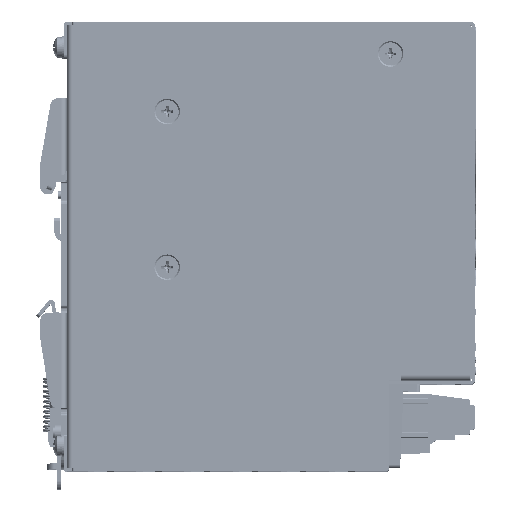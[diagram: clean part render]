
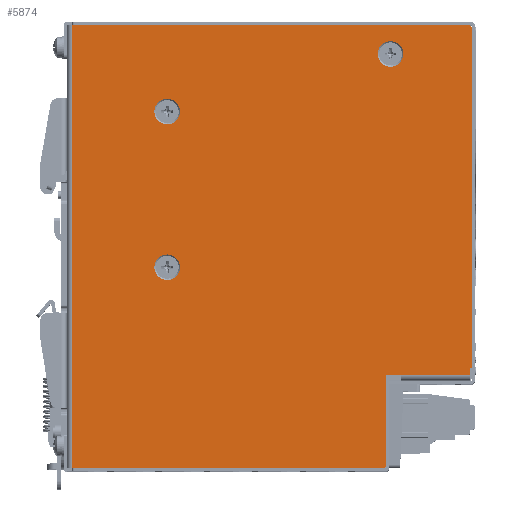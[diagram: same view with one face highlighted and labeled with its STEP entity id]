
A CAD part, top view. The second image highlights one B-rep face of the part: STEP entity #5874.
In plain terms, the highlighted planar face has unit normal (0, 0, 1) as drawn and (-1, 0, 0) by its records, which use the part's own axes.
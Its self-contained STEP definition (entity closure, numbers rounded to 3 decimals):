
#721=DIRECTION('',(0.,-1.,0.));
#722=VECTOR('',#721,119.4);
#723=CARTESIAN_POINT('',(-70.,119.4,1.5));
#724=LINE('',#723,#722);
#751=CARTESIAN_POINT('',(-70.,111.6,87.3));
#752=DIRECTION('',(-1.,0.,0.));
#753=DIRECTION('',(0.,1.,0.));
#754=AXIS2_PLACEMENT_3D('',#751,#752,#753);
#759=CARTESIAN_POINT('',(-70.,111.6,87.3));
#760=DIRECTION('',(-1.,0.,0.));
#761=DIRECTION('',(0.,-1.,0.));
#762=AXIS2_PLACEMENT_3D('',#759,#760,#761);
#767=CARTESIAN_POINT('',(-70.,96.05,27.1));
#768=DIRECTION('',(-1.,0.,0.));
#769=DIRECTION('',(0.,1.,0.));
#770=AXIS2_PLACEMENT_3D('',#767,#768,#769);
#775=CARTESIAN_POINT('',(-70.,96.05,27.1));
#776=DIRECTION('',(-1.,0.,0.));
#777=DIRECTION('',(0.,-1.,0.));
#778=AXIS2_PLACEMENT_3D('',#775,#776,#777);
#783=DIRECTION('',(0.,0.,-1.));
#784=VECTOR('',#783,0.5);
#785=CARTESIAN_POINT('',(-70.,27.,109.2));
#786=LINE('',#785,#784);
#790=DIRECTION('',(0.,1.,0.));
#791=VECTOR('',#790,2.);
#792=CARTESIAN_POINT('',(-70.,25.,108.7));
#793=LINE('',#792,#791);
#797=DIRECTION('',(0.,0.,-1.));
#798=VECTOR('',#797,4.);
#799=CARTESIAN_POINT('',(-70.,25.,90.2));
#800=LINE('',#799,#798);
#804=CARTESIAN_POINT('',(-70.,1.,85.2));
#805=DIRECTION('',(-1.,0.,0.));
#806=DIRECTION('',(0.,-1.,0.));
#807=AXIS2_PLACEMENT_3D('',#804,#805,#806);
#812=DIRECTION('',(0.,0.,1.));
#813=VECTOR('',#812,83.7);
#814=CARTESIAN_POINT('',(-70.,0.,1.5));
#815=LINE('',#814,#813);
#819=DIRECTION('',(0.,0.,-1.));
#820=VECTOR('',#819,106.7);
#821=CARTESIAN_POINT('',(-70.,119.4,108.2));
#822=LINE('',#821,#820);
#826=CARTESIAN_POINT('',(-70.,118.4,108.2));
#827=DIRECTION('',(-1.,0.,0.));
#828=DIRECTION('',(0.,0.,1.));
#829=AXIS2_PLACEMENT_3D('',#826,#827,#828);
#834=DIRECTION('',(0.,1.,0.));
#835=VECTOR('',#834,91.4);
#836=CARTESIAN_POINT('',(-70.,27.,109.2));
#837=LINE('',#836,#835);
#841=CARTESIAN_POINT('',(-70.,54.1,27.1));
#842=DIRECTION('',(-1.,0.,0.));
#843=DIRECTION('',(0.,1.,0.));
#844=AXIS2_PLACEMENT_3D('',#841,#842,#843);
#849=CARTESIAN_POINT('',(-70.,54.1,27.1));
#850=DIRECTION('',(-1.,0.,0.));
#851=DIRECTION('',(0.,-1.,0.));
#852=AXIS2_PLACEMENT_3D('',#849,#850,#851);
#1576=DIRECTION('',(0.,1.,0.));
#1577=VECTOR('',#1576,24.);
#1578=CARTESIAN_POINT('',(-70.,1.,86.2));
#1579=LINE('',#1578,#1577);
#1655=DIRECTION('',(0.,0.,-1.));
#1656=VECTOR('',#1655,18.5);
#1657=CARTESIAN_POINT('',(-70.,25.,108.7));
#1658=LINE('',#1657,#1656);
#4583=CARTESIAN_POINT('',(-70.,119.4,1.5));
#4584=CARTESIAN_POINT('',(-70.,0.,1.5));
#4585=VERTEX_POINT('',#4583);
#4586=VERTEX_POINT('',#4584);
#4795=CARTESIAN_POINT('',(-70.,118.4,109.2));
#4796=CARTESIAN_POINT('',(-70.,119.4,108.2));
#4797=VERTEX_POINT('',#4795);
#4798=VERTEX_POINT('',#4796);
#4819=CARTESIAN_POINT('',(-70.,115.05,87.3));
#4820=VERTEX_POINT('',#4819);
#4821=CARTESIAN_POINT('',(-70.,108.15,87.3));
#4822=VERTEX_POINT('',#4821);
#4843=CARTESIAN_POINT('',(-70.,99.5,27.1));
#4844=VERTEX_POINT('',#4843);
#4845=CARTESIAN_POINT('',(-70.,92.6,27.1));
#4846=VERTEX_POINT('',#4845);
#4923=CARTESIAN_POINT('',(-70.,25.,90.2));
#4924=CARTESIAN_POINT('',(-70.,25.,86.2));
#4925=VERTEX_POINT('',#4923);
#4926=VERTEX_POINT('',#4924);
#4957=CARTESIAN_POINT('',(-70.,0.,85.2));
#4958=CARTESIAN_POINT('',(-70.,1.,86.2));
#4959=VERTEX_POINT('',#4957);
#4960=VERTEX_POINT('',#4958);
#4965=CARTESIAN_POINT('',(-70.,27.,109.2));
#4966=CARTESIAN_POINT('',(-70.,27.,108.7));
#4967=VERTEX_POINT('',#4965);
#4968=VERTEX_POINT('',#4966);
#4969=CARTESIAN_POINT('',(-70.,25.,108.7));
#4970=VERTEX_POINT('',#4969);
#5287=CARTESIAN_POINT('',(-70.,57.55,27.1));
#5288=VERTEX_POINT('',#5287);
#5289=CARTESIAN_POINT('',(-70.,50.65,27.1));
#5290=VERTEX_POINT('',#5289);
#5828=CARTESIAN_POINT('',(-70.,0.,0.));
#5829=DIRECTION('',(-1.,0.,0.));
#5830=DIRECTION('',(0.,-1.,0.));
#5831=AXIS2_PLACEMENT_3D('',#5828,#5829,#5830);
#5832=PLANE('',#5831);
#5834=ORIENTED_EDGE('',*,*,#5833,.T.);
#5836=ORIENTED_EDGE('',*,*,#5835,.F.);
#5838=ORIENTED_EDGE('',*,*,#5837,.T.);
#5840=ORIENTED_EDGE('',*,*,#5839,.T.);
#5842=ORIENTED_EDGE('',*,*,#5841,.F.);
#5844=ORIENTED_EDGE('',*,*,#5843,.F.);
#5846=ORIENTED_EDGE('',*,*,#5845,.F.);
#5847=ORIENTED_EDGE('',*,*,#5819,.F.);
#5849=ORIENTED_EDGE('',*,*,#5848,.F.);
#5851=ORIENTED_EDGE('',*,*,#5850,.F.);
#5853=ORIENTED_EDGE('',*,*,#5852,.F.);
#5854=EDGE_LOOP('',(#5834,#5836,#5838,#5840,#5842,#5844,#5846,#5847,#5849,#5851,
#5853));
#5855=FACE_OUTER_BOUND('',#5854,.F.);
#5857=ORIENTED_EDGE('',*,*,#5856,.T.);
#5859=ORIENTED_EDGE('',*,*,#5858,.T.);
#5860=EDGE_LOOP('',(#5857,#5859));
#5861=FACE_BOUND('',#5860,.F.);
#5863=ORIENTED_EDGE('',*,*,#5862,.T.);
#5865=ORIENTED_EDGE('',*,*,#5864,.T.);
#5866=EDGE_LOOP('',(#5863,#5865));
#5867=FACE_BOUND('',#5866,.F.);
#5869=ORIENTED_EDGE('',*,*,#5868,.T.);
#5871=ORIENTED_EDGE('',*,*,#5870,.T.);
#5872=EDGE_LOOP('',(#5869,#5871));
#5873=FACE_BOUND('',#5872,.F.);
#755=CIRCLE('',#754,3.45);
#763=CIRCLE('',#762,3.45);
#771=CIRCLE('',#770,3.45);
#779=CIRCLE('',#778,3.45);
#808=CIRCLE('',#807,1.);
#830=CIRCLE('',#829,1.);
#845=CIRCLE('',#844,3.45);
#853=CIRCLE('',#852,3.45);
#5819=EDGE_CURVE('',#4585,#4586,#724,.T.);
#5833=EDGE_CURVE('',#4967,#4968,#786,.T.);
#5835=EDGE_CURVE('',#4970,#4968,#793,.T.);
#5837=EDGE_CURVE('',#4970,#4925,#1658,.T.);
#5839=EDGE_CURVE('',#4925,#4926,#800,.T.);
#5841=EDGE_CURVE('',#4960,#4926,#1579,.T.);
#5843=EDGE_CURVE('',#4959,#4960,#808,.T.);
#5845=EDGE_CURVE('',#4586,#4959,#815,.T.);
#5848=EDGE_CURVE('',#4798,#4585,#822,.T.);
#5850=EDGE_CURVE('',#4797,#4798,#830,.T.);
#5852=EDGE_CURVE('',#4967,#4797,#837,.T.);
#5856=EDGE_CURVE('',#4844,#4846,#771,.T.);
#5858=EDGE_CURVE('',#4846,#4844,#779,.T.);
#5862=EDGE_CURVE('',#4820,#4822,#755,.T.);
#5864=EDGE_CURVE('',#4822,#4820,#763,.T.);
#5868=EDGE_CURVE('',#5288,#5290,#845,.T.);
#5870=EDGE_CURVE('',#5290,#5288,#853,.T.);
#5874=ADVANCED_FACE('',(#5855,#5861,#5867,#5873),#5832,.T.);
